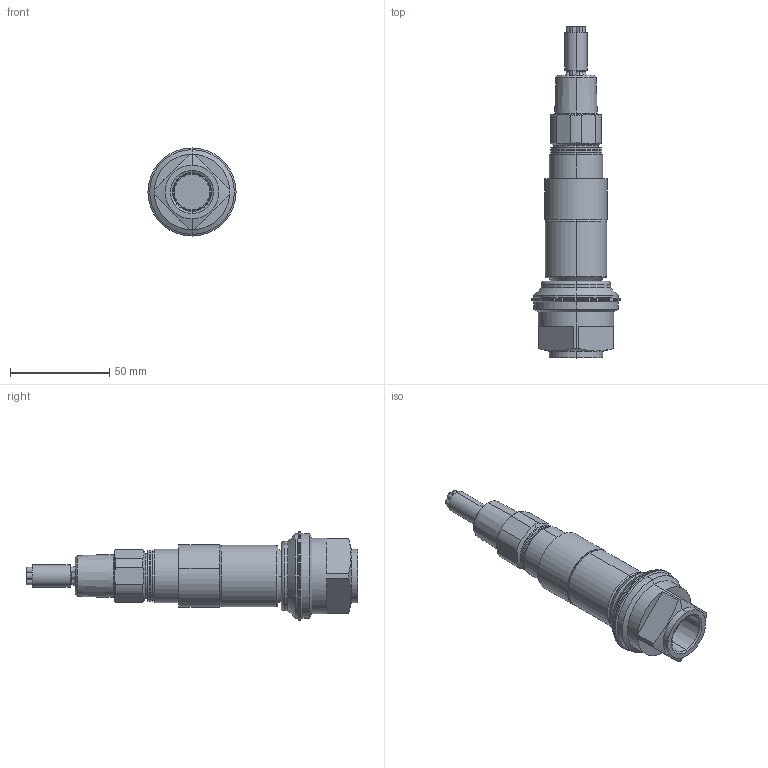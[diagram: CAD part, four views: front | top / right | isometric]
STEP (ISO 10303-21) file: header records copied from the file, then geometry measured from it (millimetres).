
FILE_DESCRIPTION (( 'STEP AP214' ), '1' );
FILE_NAME ('12SXXN7_A_D_V8.STEP', '2025-04-02T11:24:10', ( '' ), ( '' ), 'SwSTEP 2.0', 'SolidWorks 2023', '' );
FILE_SCHEMA (( 'AUTOMOTIVE_DESIGN' ));
Length unit declared in the file: inch
Products named in the file (1): 12SXXN7_A_D_V8
Bounding box: 44.45 x 167.54 x 44.45 mm (x, y, z)
Surface area: 26544 mm2 (no closed solid volume)
Topology: 0 solids, 12 shells, 156 faces, 372 edges, 236 vertices
Faces by surface type: cylinder 59, plane 40, cone 35, torus 18, bspline 4
Entity records: 4965 total; most frequent: CARTESIAN_POINT 1278, DIRECTION 844, ORIENTED_EDGE 706, EDGE_CURVE 372, AXIS2_PLACEMENT_3D 366, VERTEX_POINT 236, CIRCLE 213, EDGE_LOOP 173
